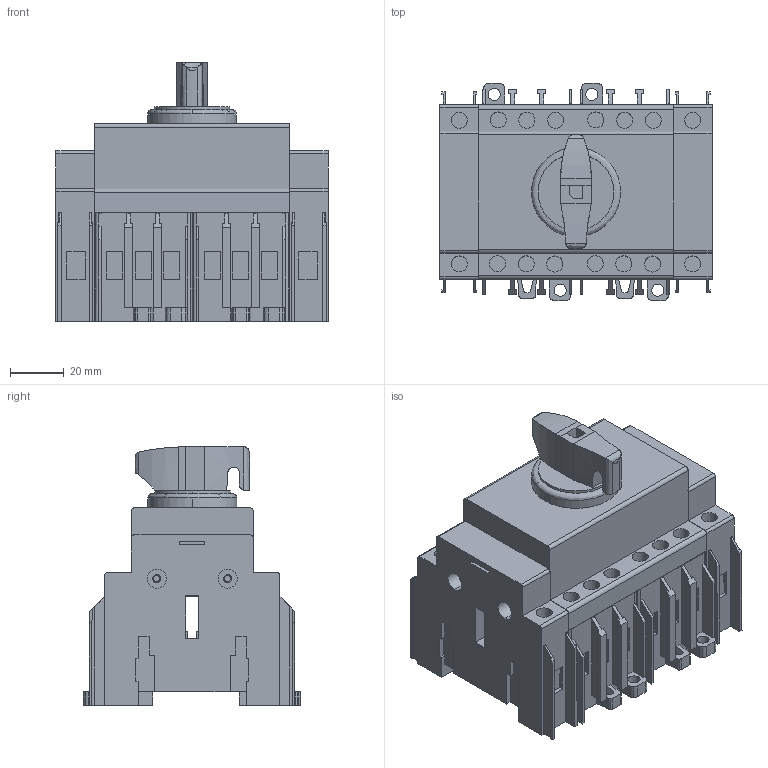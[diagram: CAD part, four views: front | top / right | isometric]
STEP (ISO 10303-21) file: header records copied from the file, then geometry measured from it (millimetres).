
FILE_DESCRIPTION (( 'STEP AP203' ), '1' );
FILE_NAME ('OptiSwitch DI-63-4C (m=0,38êã).STEP', '2023-09-20T12:36:27', ( '' ), ( '' ), 'SwSTEP 2.0', 'SolidWorks 2018', '' );
FILE_SCHEMA (( 'CONFIG_CONTROL_DESIGN' ));
Length unit declared in the file: millimetre
Products named in the file (3): Ïîëþñ ÷åòâåðòûé OptiSwitch DI-16-63; OptiSwitch DI-63-4C (m=0,38羱); OptiSwitch DI-63-4C_R
Assembly tree (3 placements, depth 2):
  OptiSwitch DI-63-4C (m=0,38羱)
    OptiSwitch DI-63-4C_R
    Ïîëþñ ÷åòâåðòûé OptiSwitch DI-16-63  x2
Bounding box: 101.45 x 80.96 x 96.4 mm (x, y, z)
Volume: 384704.8 mm3; surface area: 88722 mm2
Topology: 7 solids, 7 shells, 864 faces, 2330 edges, 1547 vertices
Faces by surface type: plane 690, bspline 93, cylinder 81
Entity records: 23282 total; most frequent: CARTESIAN_POINT 5697, ORIENTED_EDGE 3858, DIRECTION 3122, EDGE_CURVE 1929, VECTOR 1600, LINE 1600, VERTEX_POINT 1280, EDGE_LOOP 783
